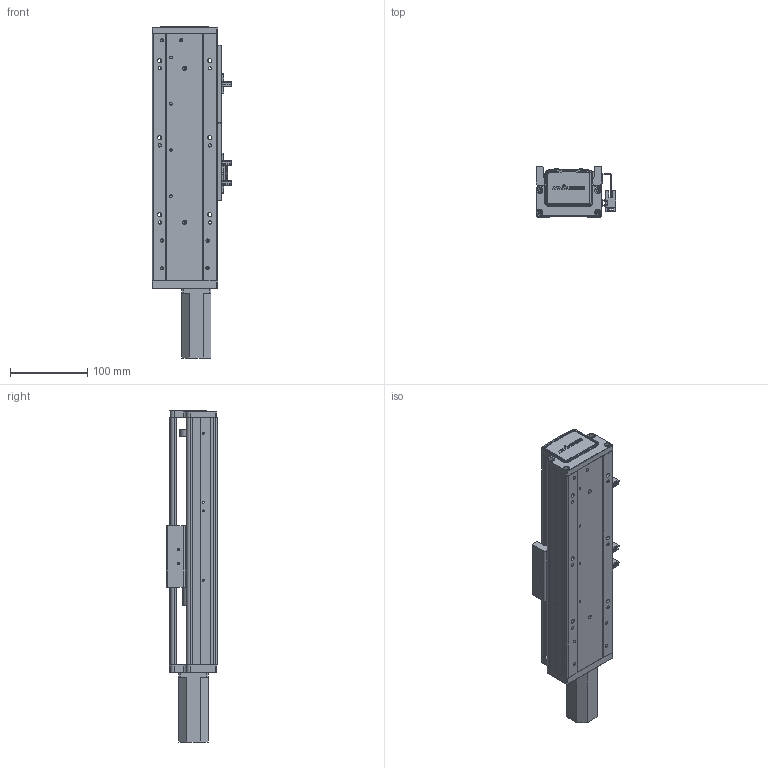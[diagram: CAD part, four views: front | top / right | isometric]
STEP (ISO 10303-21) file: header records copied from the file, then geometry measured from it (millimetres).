
FILE_DESCRIPTION (( 'STEP AP203' ), '1' );
FILE_NAME ('RY80-L1620-300-MK(100W).SLDASM_100.step', '2021-02-20T02:19:22', ( '' ), ( '' ), 'SwSTEP 2.0', 'SolidWorks 2012', '' );
FILE_SCHEMA (( 'CONFIG_CONTROL_DESIGN' ));
Length unit declared in the file: millimetre
Products named in the file (12): RY80-L1620-300-MK(100W).SLDASM_100; 侂狟100W; 滅袉蝶18-24; RY80俋离覜茼え; 672嫖萇羲壽假蚾釱; 覜茼ん672; 滅袉蝶18-10; RY80前盖板(100W电机)M3; RY80-300-MK倰第奻裔啣_100; RY80臏賑輸; RY80綴裔啣; RY80-300-MK倰第菁釱_100
Assembly tree (14 placements, depth 2):
  RY80-L1620-300-MK(100W).SLDASM_100
    RY80-300-MK倰第菁釱_100
    RY80臏賑輸
    RY80-300-MK倰第奻裔啣_100
    RY80前盖板(100W电机)M3
    RY80綴裔啣
    滅袉蝶18-10
    672嫖萇羲壽假蚾釱  x2
    覜茼ん672  x3
    RY80俋离覜茼え
    滅袉蝶18-24
    侂狟100W
Bounding box: 103.7 x 65 x 431 mm (x, y, z)
Volume: 742612.8 mm3; surface area: 287556.5 mm2
Topology: 14 solids, 14 shells, 1433 faces, 3979 edges, 2597 vertices
Faces by surface type: plane 876, cylinder 454, cone 69, bspline 34
Entity records: 43154 total; most frequent: CARTESIAN_POINT 10585, ORIENTED_EDGE 6726, DIRECTION 6130, EDGE_CURVE 3363, VECTOR 2222, LINE 2222, VERTEX_POINT 2213, AXIS2_PLACEMENT_3D 1954
